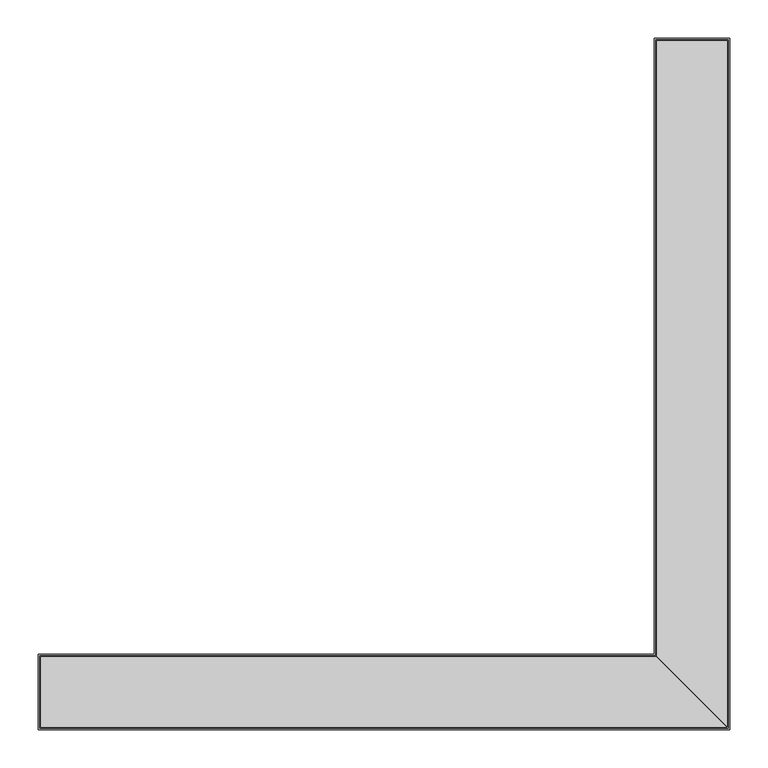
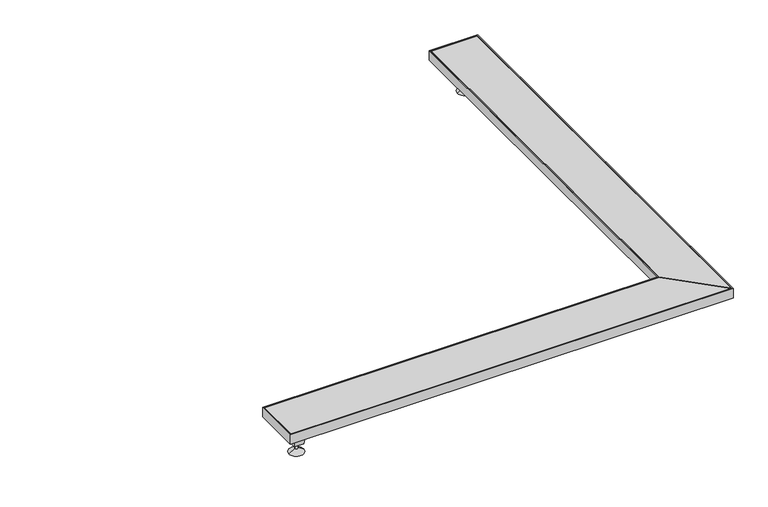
"""IFC4 building model written with IfcOpenShell, lengths in millimetres: sanitary terminal geometry, NLRS_PF_52_UN_Multi Square in_uitloop_Easydrain : Multi Square zijuitloop hoog 50mm, zij-ingang 40mm."""

from ifc_helpers import new_model, si_unit, frame, origin, place, context, project, spatial, polyline, circle_curve, faceted_brep, source, transform, mapped, element, save
from ifc_brep_helpers import plane_surface, cylinder_surface, revolved_surface, advanced_brep


def sanitary_terminal_14f323dd(model_context):
    return source(origin(), model_context, "Body", "SolidModel", [
        advanced_brep(
        [(854.0, -40.0, -60.0), (848.0, -40.0, -60.0), (851.0, -40.0, -60.0), (854.0, -40.0, -71.5), (848.0, -40.0, -71.5), (866.0, -40.0, -79.0), (836.0, -40.0, -79.0), (851.0, -40.0, -79.0)],
        [
            (0, 1, circle_curve(frame((851.0, -40.0, -60.0), z_axis=(0.0, 0.0, 1.0), x_axis=(-1.0, 0.0, 0.0)), 3.0)),
            (1, 2),
            (2, 0),
            (1, 0, circle_curve(frame((851.0, -40.0, -60.0), z_axis=(0.0, 0.0, 1.0), x_axis=(-1.0, 0.0, 0.0)), 3.0)),
            (3, 4, circle_curve(frame((851.0, -40.0, -71.5), z_axis=(0.0, 0.0, 1.0), x_axis=(-1.0, 0.0, 0.0)), 3.0)),
            (4, 1),
            (0, 3),
            (4, 3, circle_curve(frame((851.0, -40.0, -71.5), z_axis=(0.0, 0.0, 1.0), x_axis=(-1.0, 0.0, 0.0)), 3.0)),
            (5, 6, circle_curve(frame((851.0, -40.0, -79.0), z_axis=(0.0, 0.0, 1.0), x_axis=(-1.0, 0.0, 0.0)), 15.0)),
            (6, 4),
            (3, 5),
            (6, 5, circle_curve(frame((851.0, -40.0, -79.0), z_axis=(0.0, 0.0, 1.0), x_axis=(-1.0, 0.0, 0.0)), 15.0)),
            (7, 6),
            (5, 7),
        ],
        [
            plane_surface(frame((851.0, -40.0, -60.0), z_axis=(0.0, 0.0, 1.0), x_axis=(-1.0, 0.0, 0.0))),
            cylinder_surface(frame((851.0, -40.0, -87.1782032), z_axis=(0.0, 0.0, -1.0), x_axis=(-1.0, 0.0, 0.0)), 3.0),
            revolved_surface(polyline([(848.0, -40.0, -71.5), (836.0, -40.0, -79.0)]), (851.0, -40.0, -87.1782032), (0.0, 0.0, -1.0)),
            plane_surface(frame((851.0, -40.0, -79.0), z_axis=(0.0, 0.0, -1.0), x_axis=(-1.0, 0.0, 0.0))),
        ],
        [
            (0, [[1, 2, 3]]),
            (0, [[4, -3, -2]]),
            (1, [[5, 6, -1, 7]]),
            (1, [[8, -7, -4, -6]]),
            (2, [[9, 10, -5, 11]]),
            (2, [[12, -11, -8, -10]]),
            (3, [[13, -9, 14]]),
            (3, [[-14, -12, -13]]),
        ],
    ),
        faceted_brep([(841.0, -30.0, -60.0), (861.0, -30.0, -60.0), (861.0, -50.0, -60.0), (841.0, -50.0, -60.0), (836.0, -25.0, -20.0), (836.0, -55.0, -20.0), (866.0, -55.0, -20.0), (866.0, -25.0, -20.0)], [[[0, 1, 2, 3]], [[4, 5, 6, 7]], [[5, 4, 0, 3]], [[6, 5, 3, 2]], [[7, 6, 2, 1]], [[4, 7, 1, 0]]]),
        advanced_brep(
        [(43.0, -851.0, -60.0), (37.0, -851.0, -60.0), (40.0, -851.0, -60.0), (43.0, -851.0, -71.5), (37.0, -851.0, -71.5), (55.0, -851.0, -79.0), (25.0, -851.0, -79.0), (40.0, -851.0, -79.0)],
        [
            (0, 1, circle_curve(frame((40.0, -851.0, -60.0), z_axis=(0.0, 0.0, 1.0), x_axis=(-1.0, 0.0, 0.0)), 3.0)),
            (1, 2),
            (2, 0),
            (1, 0, circle_curve(frame((40.0, -851.0, -60.0), z_axis=(0.0, 0.0, 1.0), x_axis=(-1.0, 0.0, 0.0)), 3.0)),
            (3, 4, circle_curve(frame((40.0, -851.0, -71.5), z_axis=(0.0, 0.0, 1.0), x_axis=(-1.0, 0.0, 0.0)), 3.0)),
            (4, 1),
            (0, 3),
            (4, 3, circle_curve(frame((40.0, -851.0, -71.5), z_axis=(0.0, 0.0, 1.0), x_axis=(-1.0, 0.0, 0.0)), 3.0)),
            (5, 6, circle_curve(frame((40.0, -851.0, -79.0), z_axis=(0.0, 0.0, 1.0), x_axis=(-1.0, 0.0, 0.0)), 15.0)),
            (6, 4),
            (3, 5),
            (6, 5, circle_curve(frame((40.0, -851.0, -79.0), z_axis=(0.0, 0.0, 1.0), x_axis=(-1.0, 0.0, 0.0)), 15.0)),
            (7, 6),
            (5, 7),
        ],
        [
            plane_surface(frame((40.0, -851.0, -60.0), z_axis=(0.0, 0.0, 1.0), x_axis=(-1.0, 0.0, 0.0))),
            cylinder_surface(frame((40.0, -851.0, -87.1782032), z_axis=(0.0, 0.0, -1.0), x_axis=(-1.0, 0.0, 0.0)), 3.0),
            revolved_surface(polyline([(37.0, -851.0, -71.5), (25.0, -851.0, -79.0)]), (40.0, -851.0, -87.1782032), (0.0, 0.0, -1.0)),
            plane_surface(frame((40.0, -851.0, -79.0), z_axis=(0.0, 0.0, -1.0), x_axis=(-1.0, 0.0, 0.0))),
        ],
        [
            (0, [[1, 2, 3]]),
            (0, [[4, -3, -2]]),
            (1, [[5, 6, -1, 7]]),
            (1, [[8, -7, -4, -6]]),
            (2, [[9, 10, -5, 11]]),
            (2, [[12, -11, -8, -10]]),
            (3, [[13, -9, 14]]),
            (3, [[-14, -12, -13]]),
        ],
    ),
        faceted_brep([(30.0, -841.0, -60.0), (50.0, -841.0, -60.0), (50.0, -861.0, -60.0), (30.0, -861.0, -60.0), (25.0, -836.0, -20.0), (25.0, -866.0, -20.0), (55.0, -866.0, -20.0), (55.0, -836.0, -20.0)], [[[0, 1, 2, 3]], [[4, 5, 6, 7]], [[5, 4, 0, 3]], [[6, 5, 3, 2]], [[7, 6, 2, 1]], [[4, 7, 1, 0]]]),
        faceted_brep([(0.0, -802.0, 0.0), (0.0, -802.0, -20.0), (0.0, -900.0, -20.0), (0.0, -900.0, 0.0), (802.0, -802.0, 0.0), (802.0, -802.0, -20.0), (802.0, 0.0, -20.0), (900.0, 0.0, -20.0), (900.0, -900.0, -20.0), (900.0, -900.0, 0.0), (900.0, 0.0, 0.0), (802.0, 0.0, 0.0), (2.0, -898.0, 0.0), (2.0, -804.0, 0.0), (804.0, -804.0, 0.0), (804.0, -2.0, 0.0), (898.0, -2.0, 0.0), (898.0, -898.0, 0.0), (804.2928932, -805.0, 0.0), (3.0, -805.0, 0.0), (3.0, -897.0, 0.0), (896.2928932, -897.0, 0.0), (897.0, -896.2928932, 0.0), (897.0, -3.0, 0.0), (805.0, -3.0, 0.0), (805.0, -804.2928932, 0.0), (2.0, -804.0, -12.0), (2.0, -898.0, -12.0), (898.0, -898.0, -12.0), (898.0, -2.0, -12.0), (804.0, -2.0, -12.0), (804.0, -804.0, -12.0), (3.0, -805.0, -12.0), (804.2928932, -805.0, -12.0), (896.2928932, -897.0, -12.0), (3.0, -897.0, -12.0), (897.0, -3.0, -12.0), (897.0, -896.2928932, -12.0), (805.0, -804.2928932, -12.0), (805.0, -3.0, -12.0)], [[[0, 1, 2, 3]], [[1, 0, 4, 5]], [[2, 1, 5, 6, 7, 8]], [[3, 2, 8, 9]], [[0, 3, 9, 10, 11, 4], [12, 13, 14, 15, 16, 17]], [[18, 19, 20, 21]], [[22, 23, 24, 25]], [[7, 6, 11, 10]], [[5, 4, 11, 6]], [[8, 7, 10, 9]], [[26, 27, 28, 29, 30, 31], [32, 33, 34, 35], [36, 37, 38, 39]], [[27, 26, 13, 12]], [[28, 27, 12, 17]], [[29, 28, 17, 16]], [[30, 29, 16, 15]], [[31, 30, 15, 14]], [[26, 31, 14, 13]], [[33, 32, 19, 18]], [[34, 33, 18, 21]], [[35, 34, 21, 20]], [[32, 35, 20, 19]], [[37, 36, 23, 22]], [[38, 37, 22, 25]], [[39, 38, 25, 24]], [[36, 39, 24, 23]]]),
    ])


if __name__ == "__main__":
    model = new_model("IFC4")
    model_context = context("Model", 3, world=origin())
    ifc_project = project(units=[si_unit("LENGTHUNIT", "METRE", prefix="MILLI")], contexts=[model_context])
    site = spatial("IfcSite", under=ifc_project)
    building = spatial("IfcBuilding", under=site)
    placement = place(None, origin())
    sanitary_terminal_shape = sanitary_terminal_14f323dd(model_context)
    element("IfcSanitaryTerminal", 1, ObjectType="NLRS_PF_52_UN_Multi Square in_uitloop_Easydrain : Multi Square zijuitloop hoog 50mm, zij-ingang 40mm", at=placement, inside=building, context=model_context, shape_type="MappedRepresentation", body=[
        mapped(sanitary_terminal_shape, transform((0.0, 0.0, 0.0), x_axis=(1.0, 0.0, 0.0), y_axis=(0.0, 1.0, 0.0), z_axis=(0.0, 0.0, 1.0))),
    ])
    save(model, "model.ifc")
